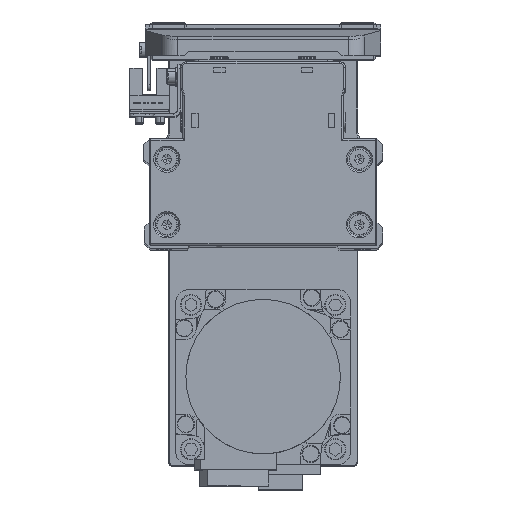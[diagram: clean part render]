
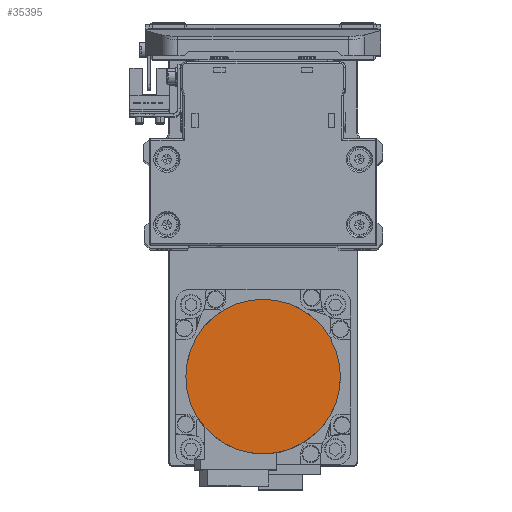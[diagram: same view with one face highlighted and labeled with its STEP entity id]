
A CAD part, top view. The second image highlights one B-rep face of the part: STEP entity #35395.
In plain terms, the highlighted planar face has unit normal (0, 0, 1) as drawn and (0, 0, -1) by its records, which use the part's own axes.
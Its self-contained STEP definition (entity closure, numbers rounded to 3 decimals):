
#317 = AXIS2_PLACEMENT_3D ( 'NONE', #36171, #8165, #20616 ) ;
#600 = CARTESIAN_POINT ( 'NONE',  ( 26.5, 0., -109.7 ) ) ;
#1827 = DIRECTION ( 'NONE',  ( 1., 0., 0. ) ) ;
#3785 = AXIS2_PLACEMENT_3D ( 'NONE', #32454, #4443, #16906 ) ;
#4443 = DIRECTION ( 'NONE',  ( 0., 0., 1. ) ) ;
#8165 = DIRECTION ( 'NONE',  ( 0., 0., 1. ) ) ;
#10203 = ORIENTED_EDGE ( 'NONE', *, *, #24828, .F. ) ;
#11224 = FACE_OUTER_BOUND ( 'NONE', #14690, .T. ) ;
#12869 = CIRCLE ( 'NONE', #35721, 26.5 ) ;
#14690 = EDGE_LOOP ( 'NONE', ( #10203, #36223 ) ) ;
#15882 = VERTEX_POINT ( 'NONE', #600 ) ;
#16906 = DIRECTION ( 'NONE',  ( -1., 0., 0. ) ) ;
#16976 = CARTESIAN_POINT ( 'NONE',  ( -26.5, 0., -109.7 ) ) ;
#17350 = CARTESIAN_POINT ( 'NONE',  ( 0., 0., -109.7 ) ) ;
#20616 = DIRECTION ( 'NONE',  ( 1., 0., 0. ) ) ;
#21392 = CIRCLE ( 'NONE', #3785, 26.5 ) ;
#23698 = PLANE ( 'NONE',  #317 ) ;
#24828 = EDGE_CURVE ( 'NONE', #31413, #15882, #21392, .T. ) ;
#29815 = DIRECTION ( 'NONE',  ( 0., 0., 1. ) ) ;
#31413 = VERTEX_POINT ( 'NONE', #16976 ) ;
#32454 = CARTESIAN_POINT ( 'NONE',  ( 0., 0., -109.7 ) ) ;
#35395 = ADVANCED_FACE ( 'NONE', ( #11224 ), #23698, .F. ) ;
#35721 = AXIS2_PLACEMENT_3D ( 'NONE', #17350, #29815, #1827 ) ;
#36171 = CARTESIAN_POINT ( 'NONE',  ( 0., 0., -109.7 ) ) ;
#36223 = ORIENTED_EDGE ( 'NONE', *, *, #39489, .F. ) ;
#39489 = EDGE_CURVE ( 'NONE', #15882, #31413, #12869, .T. ) ;
